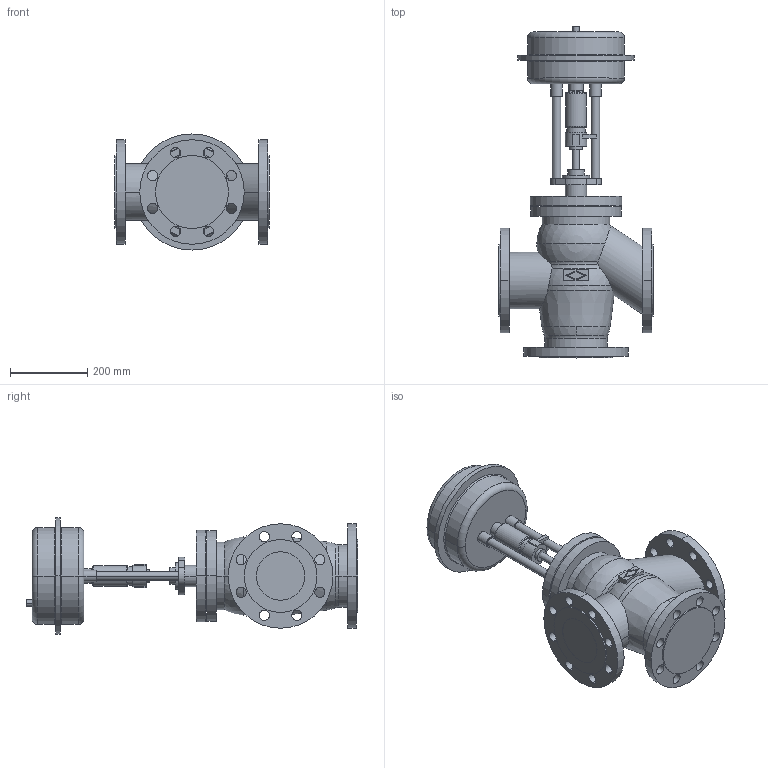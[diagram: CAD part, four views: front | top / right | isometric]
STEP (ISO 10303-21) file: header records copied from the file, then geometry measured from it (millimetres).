
FILE_DESCRIPTION(('OneSpaceDesigner STEP Export'),'2;1');
FILE_NAME('c000000678.stp','2006-09-19T10:08:38',(''),(''),'OneSpace Designer STEP processor for AP214 (Solid Model)','OneSpace Designer 13.20A 18-Aug-2005 (C) CoCreate Software GmbH','');
FILE_SCHEMA(('AUTOMOTIVE_DESIGN { 1 0 10303 214 1 1 1 1 }'));
Length unit declared in the file: millimetre
Products named in the file (2): 1; 2
Bounding box: 400 x 857.6 x 300 mm (x, y, z)
Volume: 26244707.8 mm3; surface area: 1111040.4 mm2
Topology: 2 solids, 2 shells, 227 faces, 569 edges, 368 vertices
Faces by surface type: cylinder 116, plane 73, torus 24, sphere 8, cone 6
Entity records: 6150 total; most frequent: CARTESIAN_POINT 1247, ORIENTED_EDGE 1122, DIRECTION 868, EDGE_CURVE 561, VERTEX_POINT 368, AXIS2_PLACEMENT_3D 326, EDGE_LOOP 305, FACE_OUTER_BOUND 227
